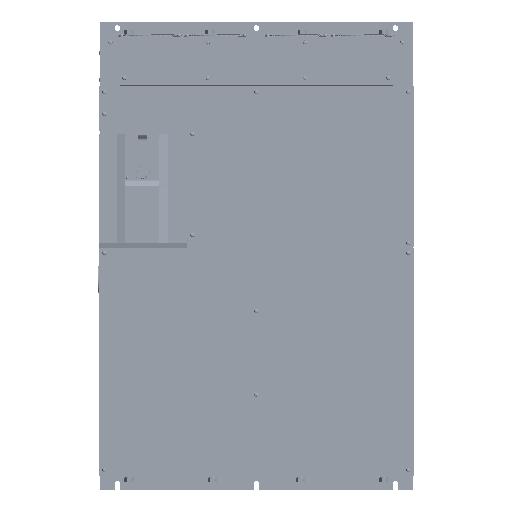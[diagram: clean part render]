
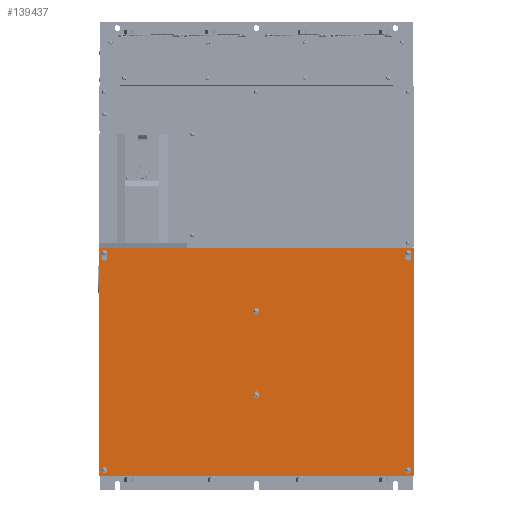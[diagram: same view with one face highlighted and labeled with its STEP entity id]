
A CAD part, top view. The second image highlights one B-rep face of the part: STEP entity #139437.
In plain terms, the highlighted planar face has unit normal (0, 0, 1).
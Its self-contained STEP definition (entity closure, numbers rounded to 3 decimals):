
#138612=DIRECTION('',(0.,1.,0.));
#138613=VECTOR('',#138612,491.5);
#138614=CARTESIAN_POINT('',(-340.,-245.75,0.));
#138615=LINE('',#138614,#138613);
#138660=DIRECTION('',(0.,1.,0.));
#138661=VECTOR('',#138660,491.5);
#138662=CARTESIAN_POINT('',(340.,-245.75,0.));
#138663=LINE('',#138662,#138661);
#138759=CARTESIAN_POINT('',(-328.,225.25,0.));
#138760=DIRECTION('',(0.,0.,-1.));
#138761=DIRECTION('',(0.538,0.843,0.));
#138762=AXIS2_PLACEMENT_3D('',#138759,#138760,#138761);
#138768=DIRECTION('',(1.,0.,0.));
#138769=VECTOR('',#138768,680.);
#138770=CARTESIAN_POINT('',(-340.,-245.75,0.));
#138771=LINE('',#138770,#138769);
#138772=DIRECTION('',(0.,-1.,0.));
#138773=VECTOR('',#138772,4.523);
#138774=CARTESIAN_POINT('',(-324.5,235.25,0.));
#138775=LINE('',#138774,#138773);
#138776=CARTESIAN_POINT('',(-328.,235.25,0.));
#138777=DIRECTION('',(0.,0.,-1.));
#138778=DIRECTION('',(-1.,0.,0.));
#138779=AXIS2_PLACEMENT_3D('',#138776,#138777,#138778);
#138781=DIRECTION('',(0.,1.,0.));
#138782=VECTOR('',#138781,4.523);
#138783=CARTESIAN_POINT('',(-331.5,230.727,0.));
#138784=LINE('',#138783,#138782);
#138785=DIRECTION('',(0.,-1.,0.));
#138786=VECTOR('',#138785,4.523);
#138787=CARTESIAN_POINT('',(331.5,235.25,0.));
#138788=LINE('',#138787,#138786);
#138789=CARTESIAN_POINT('',(328.,235.25,0.));
#138790=DIRECTION('',(0.,0.,-1.));
#138791=DIRECTION('',(-1.,0.,0.));
#138792=AXIS2_PLACEMENT_3D('',#138789,#138790,#138791);
#138794=DIRECTION('',(0.,1.,0.));
#138795=VECTOR('',#138794,4.523);
#138796=CARTESIAN_POINT('',(324.5,230.727,0.));
#138797=LINE('',#138796,#138795);
#138798=DIRECTION('',(0.,-1.,0.));
#138799=VECTOR('',#138798,7.);
#138800=CARTESIAN_POINT('',(-331.5,-230.25,0.));
#138801=LINE('',#138800,#138799);
#138802=DIRECTION('',(0.,1.,0.));
#138803=VECTOR('',#138802,7.);
#138804=CARTESIAN_POINT('',(-324.5,-237.25,0.));
#138805=LINE('',#138804,#138803);
#138806=DIRECTION('',(0.,1.,0.));
#138807=VECTOR('',#138806,7.);
#138808=CARTESIAN_POINT('',(3.5,106.25,0.));
#138809=LINE('',#138808,#138807);
#138810=DIRECTION('',(0.,-1.,0.));
#138811=VECTOR('',#138810,7.);
#138812=CARTESIAN_POINT('',(-3.5,113.25,0.));
#138813=LINE('',#138812,#138811);
#138814=DIRECTION('',(0.,1.,0.));
#138815=VECTOR('',#138814,7.);
#138816=CARTESIAN_POINT('',(3.5,-74.25,0.));
#138817=LINE('',#138816,#138815);
#138818=DIRECTION('',(0.,-1.,0.));
#138819=VECTOR('',#138818,7.);
#138820=CARTESIAN_POINT('',(-3.5,-67.25,0.));
#138821=LINE('',#138820,#138819);
#138822=DIRECTION('',(-1.,0.,0.));
#138823=VECTOR('',#138822,4.);
#138824=CARTESIAN_POINT('',(330.,-229.75,0.));
#138825=LINE('',#138824,#138823);
#138826=DIRECTION('',(1.,0.,0.));
#138827=VECTOR('',#138826,4.);
#138828=CARTESIAN_POINT('',(326.,-237.75,0.));
#138829=LINE('',#138828,#138827);
#138830=DIRECTION('',(1.,0.,0.));
#138831=VECTOR('',#138830,680.);
#138832=CARTESIAN_POINT('',(-340.,245.75,0.));
#138833=LINE('',#138832,#138831);
#138851=CARTESIAN_POINT('',(328.,225.25,0.));
#138852=DIRECTION('',(0.,0.,-1.));
#138853=DIRECTION('',(0.538,0.843,0.));
#138854=AXIS2_PLACEMENT_3D('',#138851,#138852,#138853);
#138881=CARTESIAN_POINT('',(-328.,-230.25,0.));
#138882=DIRECTION('',(0.,0.,-1.));
#138883=DIRECTION('',(-1.,0.,0.));
#138884=AXIS2_PLACEMENT_3D('',#138881,#138882,#138883);
#138894=CARTESIAN_POINT('',(-328.,-237.25,0.));
#138895=DIRECTION('',(0.,0.,-1.));
#138896=DIRECTION('',(1.,0.,0.));
#138897=AXIS2_PLACEMENT_3D('',#138894,#138895,#138896);
#138917=CARTESIAN_POINT('',(0.,113.25,0.));
#138918=DIRECTION('',(0.,0.,-1.));
#138919=DIRECTION('',(-1.,0.,0.));
#138920=AXIS2_PLACEMENT_3D('',#138917,#138918,#138919);
#138930=CARTESIAN_POINT('',(0.,106.25,0.));
#138931=DIRECTION('',(0.,0.,-1.));
#138932=DIRECTION('',(1.,0.,0.));
#138933=AXIS2_PLACEMENT_3D('',#138930,#138931,#138932);
#138953=CARTESIAN_POINT('',(0.,-67.25,0.));
#138954=DIRECTION('',(0.,0.,-1.));
#138955=DIRECTION('',(-1.,0.,0.));
#138956=AXIS2_PLACEMENT_3D('',#138953,#138954,#138955);
#138966=CARTESIAN_POINT('',(0.,-74.25,0.));
#138967=DIRECTION('',(0.,0.,-1.));
#138968=DIRECTION('',(1.,0.,0.));
#138969=AXIS2_PLACEMENT_3D('',#138966,#138967,#138968);
#138984=CARTESIAN_POINT('',(326.,-233.75,0.));
#138985=DIRECTION('',(0.,0.,-1.));
#138986=DIRECTION('',(0.,-1.,0.));
#138987=AXIS2_PLACEMENT_3D('',#138984,#138985,#138986);
#139007=CARTESIAN_POINT('',(330.,-233.75,0.));
#139008=DIRECTION('',(0.,0.,-1.));
#139009=DIRECTION('',(0.,1.,0.));
#139010=AXIS2_PLACEMENT_3D('',#139007,#139008,#139009);
#139033=CARTESIAN_POINT('',(-331.5,230.727,0.));
#139035=VERTEX_POINT('',#139033);
#139037=CARTESIAN_POINT('',(-324.5,230.727,0.));
#139039=VERTEX_POINT('',#139037);
#139041=CARTESIAN_POINT('',(324.5,230.727,0.));
#139043=VERTEX_POINT('',#139041);
#139045=CARTESIAN_POINT('',(331.5,230.727,0.));
#139047=VERTEX_POINT('',#139045);
#139049=CARTESIAN_POINT('',(-340.,-245.75,0.));
#139051=VERTEX_POINT('',#139049);
#139052=CARTESIAN_POINT('',(-340.,245.75,0.));
#139053=VERTEX_POINT('',#139052);
#139055=CARTESIAN_POINT('',(340.,-245.75,0.));
#139057=VERTEX_POINT('',#139055);
#139058=CARTESIAN_POINT('',(340.,245.75,0.));
#139059=VERTEX_POINT('',#139058);
#139068=CARTESIAN_POINT('',(-324.5,235.25,0.));
#139069=VERTEX_POINT('',#139068);
#139070=CARTESIAN_POINT('',(-331.5,235.25,0.));
#139071=VERTEX_POINT('',#139070);
#139072=CARTESIAN_POINT('',(331.5,235.25,0.));
#139073=VERTEX_POINT('',#139072);
#139074=CARTESIAN_POINT('',(324.5,235.25,0.));
#139075=VERTEX_POINT('',#139074);
#139105=CARTESIAN_POINT('',(-324.5,-230.25,0.));
#139107=VERTEX_POINT('',#139105);
#139109=CARTESIAN_POINT('',(-331.5,-230.25,0.));
#139111=VERTEX_POINT('',#139109);
#139112=CARTESIAN_POINT('',(-324.5,-237.25,0.));
#139114=VERTEX_POINT('',#139112);
#139116=CARTESIAN_POINT('',(-331.5,-237.25,0.));
#139118=VERTEX_POINT('',#139116);
#139121=CARTESIAN_POINT('',(3.5,113.25,0.));
#139123=VERTEX_POINT('',#139121);
#139125=CARTESIAN_POINT('',(-3.5,113.25,0.));
#139127=VERTEX_POINT('',#139125);
#139128=CARTESIAN_POINT('',(3.5,106.25,0.));
#139130=VERTEX_POINT('',#139128);
#139132=CARTESIAN_POINT('',(-3.5,106.25,0.));
#139134=VERTEX_POINT('',#139132);
#139137=CARTESIAN_POINT('',(3.5,-67.25,0.));
#139139=VERTEX_POINT('',#139137);
#139141=CARTESIAN_POINT('',(-3.5,-67.25,0.));
#139143=VERTEX_POINT('',#139141);
#139144=CARTESIAN_POINT('',(3.5,-74.25,0.));
#139146=VERTEX_POINT('',#139144);
#139148=CARTESIAN_POINT('',(-3.5,-74.25,0.));
#139150=VERTEX_POINT('',#139148);
#139152=CARTESIAN_POINT('',(326.,-237.75,0.));
#139154=VERTEX_POINT('',#139152);
#139156=CARTESIAN_POINT('',(326.,-229.75,0.));
#139158=VERTEX_POINT('',#139156);
#139161=CARTESIAN_POINT('',(330.,-237.75,0.));
#139163=VERTEX_POINT('',#139161);
#139165=CARTESIAN_POINT('',(330.,-229.75,0.));
#139167=VERTEX_POINT('',#139165);
#139367=CARTESIAN_POINT('',(-340.,-245.75,0.));
#139368=DIRECTION('',(0.,0.,1.));
#139369=DIRECTION('',(0.,1.,0.));
#139370=AXIS2_PLACEMENT_3D('',#139367,#139368,#139369);
#139371=PLANE('',#139370);
#139372=ORIENTED_EDGE('',*,*,#139195,.T.);
#139374=ORIENTED_EDGE('',*,*,#139373,.T.);
#139375=ORIENTED_EDGE('',*,*,#139250,.F.);
#139376=ORIENTED_EDGE('',*,*,#139175,.F.);
#139377=EDGE_LOOP('',(#139372,#139374,#139375,#139376));
#139378=FACE_OUTER_BOUND('',#139377,.F.);
#139379=ORIENTED_EDGE('',*,*,#139348,.F.);
#139381=ORIENTED_EDGE('',*,*,#139380,.F.);
#139383=ORIENTED_EDGE('',*,*,#139382,.F.);
#139384=ORIENTED_EDGE('',*,*,#139360,.F.);
#139385=EDGE_LOOP('',(#139379,#139381,#139383,#139384));
#139386=FACE_BOUND('',#139385,.F.);
#139388=ORIENTED_EDGE('',*,*,#139387,.F.);
#139390=ORIENTED_EDGE('',*,*,#139389,.F.);
#139392=ORIENTED_EDGE('',*,*,#139391,.F.);
#139394=ORIENTED_EDGE('',*,*,#139393,.F.);
#139395=EDGE_LOOP('',(#139388,#139390,#139392,#139394));
#139396=FACE_BOUND('',#139395,.F.);
#139398=ORIENTED_EDGE('',*,*,#139397,.T.);
#139400=ORIENTED_EDGE('',*,*,#139399,.F.);
#139402=ORIENTED_EDGE('',*,*,#139401,.T.);
#139404=ORIENTED_EDGE('',*,*,#139403,.F.);
#139405=EDGE_LOOP('',(#139398,#139400,#139402,#139404));
#139406=FACE_BOUND('',#139405,.F.);
#139408=ORIENTED_EDGE('',*,*,#139407,.T.);
#139410=ORIENTED_EDGE('',*,*,#139409,.F.);
#139412=ORIENTED_EDGE('',*,*,#139411,.T.);
#139414=ORIENTED_EDGE('',*,*,#139413,.F.);
#139415=EDGE_LOOP('',(#139408,#139410,#139412,#139414));
#139416=FACE_BOUND('',#139415,.F.);
#139418=ORIENTED_EDGE('',*,*,#139417,.T.);
#139420=ORIENTED_EDGE('',*,*,#139419,.F.);
#139422=ORIENTED_EDGE('',*,*,#139421,.T.);
#139424=ORIENTED_EDGE('',*,*,#139423,.F.);
#139425=EDGE_LOOP('',(#139418,#139420,#139422,#139424));
#139426=FACE_BOUND('',#139425,.F.);
#139428=ORIENTED_EDGE('',*,*,#139427,.T.);
#139430=ORIENTED_EDGE('',*,*,#139429,.F.);
#139432=ORIENTED_EDGE('',*,*,#139431,.T.);
#139434=ORIENTED_EDGE('',*,*,#139433,.F.);
#139435=EDGE_LOOP('',(#139428,#139430,#139432,#139434));
#139436=FACE_BOUND('',#139435,.F.);
#139437=ADVANCED_FACE('',(#139378,#139386,#139396,#139406,#139416,#139426,
#139436),#139371,.T.);
#138763=CIRCLE('',#138762,6.5);
#138780=CIRCLE('',#138779,3.5);
#138793=CIRCLE('',#138792,3.5);
#138855=CIRCLE('',#138854,6.5);
#138885=CIRCLE('',#138884,3.5);
#138898=CIRCLE('',#138897,3.5);
#138921=CIRCLE('',#138920,3.5);
#138934=CIRCLE('',#138933,3.5);
#138957=CIRCLE('',#138956,3.5);
#138970=CIRCLE('',#138969,3.5);
#138988=CIRCLE('',#138987,4.);
#139011=CIRCLE('',#139010,4.);
#139175=EDGE_CURVE('',#139051,#139057,#138771,.T.);
#139195=EDGE_CURVE('',#139051,#139053,#138615,.T.);
#139250=EDGE_CURVE('',#139057,#139059,#138663,.T.);
#139348=EDGE_CURVE('',#139069,#139039,#138775,.T.);
#139360=EDGE_CURVE('',#139039,#139035,#138763,.T.);
#139373=EDGE_CURVE('',#139053,#139059,#138833,.T.);
#139380=EDGE_CURVE('',#139071,#139069,#138780,.T.);
#139382=EDGE_CURVE('',#139035,#139071,#138784,.T.);
#139387=EDGE_CURVE('',#139073,#139047,#138788,.T.);
#139389=EDGE_CURVE('',#139075,#139073,#138793,.T.);
#139391=EDGE_CURVE('',#139043,#139075,#138797,.T.);
#139393=EDGE_CURVE('',#139047,#139043,#138855,.T.);
#139397=EDGE_CURVE('',#139111,#139118,#138801,.T.);
#139399=EDGE_CURVE('',#139114,#139118,#138898,.T.);
#139401=EDGE_CURVE('',#139114,#139107,#138805,.T.);
#139403=EDGE_CURVE('',#139111,#139107,#138885,.T.);
#139407=EDGE_CURVE('',#139130,#139123,#138809,.T.);
#139409=EDGE_CURVE('',#139127,#139123,#138921,.T.);
#139411=EDGE_CURVE('',#139127,#139134,#138813,.T.);
#139413=EDGE_CURVE('',#139130,#139134,#138934,.T.);
#139417=EDGE_CURVE('',#139146,#139139,#138817,.T.);
#139419=EDGE_CURVE('',#139143,#139139,#138957,.T.);
#139421=EDGE_CURVE('',#139143,#139150,#138821,.T.);
#139423=EDGE_CURVE('',#139146,#139150,#138970,.T.);
#139427=EDGE_CURVE('',#139167,#139158,#138825,.T.);
#139429=EDGE_CURVE('',#139154,#139158,#138988,.T.);
#139431=EDGE_CURVE('',#139154,#139163,#138829,.T.);
#139433=EDGE_CURVE('',#139167,#139163,#139011,.T.);
